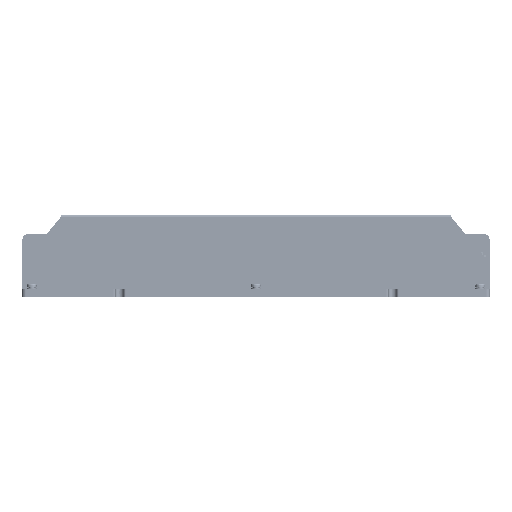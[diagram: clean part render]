
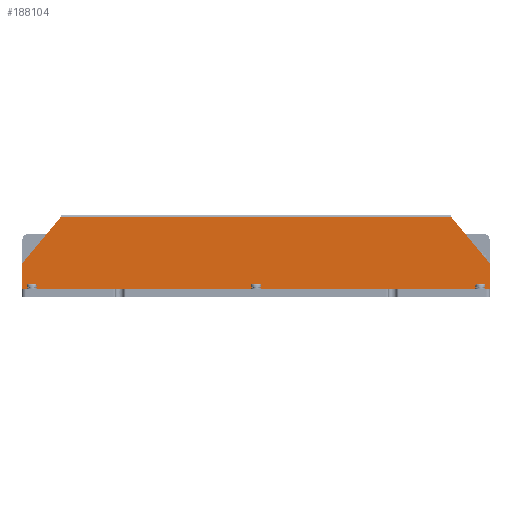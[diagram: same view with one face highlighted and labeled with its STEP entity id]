
A CAD part, top view. The second image highlights one B-rep face of the part: STEP entity #188104.
In plain terms, the highlighted planar face has unit normal (0, 0, 1).
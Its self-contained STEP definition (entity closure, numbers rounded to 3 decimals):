
#7142 = CARTESIAN_POINT ( 'NONE',  ( 119.536, 17.556, 47.1 ) ) ;
#8833 = VECTOR ( 'NONE', #40265, 1000. ) ;
#11104 = ORIENTED_EDGE ( 'NONE', *, *, #110836, .F. ) ;
#21205 = CARTESIAN_POINT ( 'NONE',  ( -119.536, 17.556, 47.1 ) ) ;
#22223 = CARTESIAN_POINT ( 'NONE',  ( -118., 16.276, 47.1 ) ) ;
#22636 = CARTESIAN_POINT ( 'NONE',  ( -100., 40.99, 47.1 ) ) ;
#32566 = EDGE_CURVE ( 'NONE', #172305, #42323, #129026, .T. ) ;
#40265 = DIRECTION ( 'NONE',  ( -1., 0., 0. ) ) ;
#42323 = VERTEX_POINT ( 'NONE', #110442 ) ;
#43633 = DIRECTION ( 'NONE',  ( -0.64, -0.768, 0. ) ) ;
#44863 = LINE ( 'NONE', #45848, #154139 ) ;
#45848 = CARTESIAN_POINT ( 'NONE',  ( 120., 40.99, 47.1 ) ) ;
#54134 = ORIENTED_EDGE ( 'NONE', *, *, #133126, .T. ) ;
#57333 = VECTOR ( 'NONE', #187794, 1000. ) ;
#57488 = AXIS2_PLACEMENT_3D ( 'NONE', #87747, #133309, #72965 ) ;
#68135 = DIRECTION ( 'NONE',  ( 0., -1., 0. ) ) ;
#69994 = LINE ( 'NONE', #160992, #8833 ) ;
#72965 = DIRECTION ( 'NONE',  ( 0., 1., 0. ) ) ;
#77948 = EDGE_CURVE ( 'NONE', #42323, #92239, #112621, .T. ) ;
#84650 = DIRECTION ( 'NONE',  ( 0., 0., 1. ) ) ;
#85659 = CARTESIAN_POINT ( 'NONE',  ( 118., 16.276, 47.1 ) ) ;
#87747 = CARTESIAN_POINT ( 'NONE',  ( 100., 40.99, 47.1 ) ) ;
#90456 = ORIENTED_EDGE ( 'NONE', *, *, #148300, .F. ) ;
#92239 = VERTEX_POINT ( 'NONE', #184400 ) ;
#94837 = LINE ( 'NONE', #97720, #57333 ) ;
#97408 = DIRECTION ( 'NONE',  ( 0., 0., 1. ) ) ;
#97720 = CARTESIAN_POINT ( 'NONE',  ( 100., 40.99, 47.1 ) ) ;
#98646 = VERTEX_POINT ( 'NONE', #116375 ) ;
#99763 = CARTESIAN_POINT ( 'NONE',  ( 100., 40.99, 47.1 ) ) ;
#100664 = CIRCLE ( 'NONE', #192312, 2. ) ;
#109586 = ORIENTED_EDGE ( 'NONE', *, *, #152282, .T. ) ;
#110442 = CARTESIAN_POINT ( 'NONE',  ( -120., 16.276, 47.1 ) ) ;
#110836 = EDGE_CURVE ( 'NONE', #195180, #98646, #44863, .T. ) ;
#111332 = DIRECTION ( 'NONE',  ( 0., 1., 0. ) ) ;
#111979 = EDGE_LOOP ( 'NONE', ( #54134, #123627, #195388, #134653, #11104, #120833, #90456, #109586 ) ) ;
#112314 = VERTEX_POINT ( 'NONE', #22636 ) ;
#112621 = LINE ( 'NONE', #140449, #170019 ) ;
#116375 = CARTESIAN_POINT ( 'NONE',  ( 120., 4.01, 47.1 ) ) ;
#120833 = ORIENTED_EDGE ( 'NONE', *, *, #161998, .T. ) ;
#123627 = ORIENTED_EDGE ( 'NONE', *, *, #32566, .T. ) ;
#128139 = VERTEX_POINT ( 'NONE', #7142 ) ;
#129026 = CIRCLE ( 'NONE', #176500, 2. ) ;
#130166 = CARTESIAN_POINT ( 'NONE',  ( 120., 16.276, 47.1 ) ) ;
#133126 = EDGE_CURVE ( 'NONE', #112314, #172305, #148578, .T. ) ;
#133309 = DIRECTION ( 'NONE',  ( 0., 0., -1. ) ) ;
#134653 = ORIENTED_EDGE ( 'NONE', *, *, #142750, .F. ) ;
#140449 = CARTESIAN_POINT ( 'NONE',  ( -120., 40.99, 47.1 ) ) ;
#142750 = EDGE_CURVE ( 'NONE', #98646, #92239, #69994, .T. ) ;
#148139 = FACE_OUTER_BOUND ( 'NONE', #111979, .T. ) ;
#148300 = EDGE_CURVE ( 'NONE', #185423, #128139, #94837, .T. ) ;
#148578 = LINE ( 'NONE', #193070, #174295 ) ;
#152282 = EDGE_CURVE ( 'NONE', #185423, #112314, #177903, .T. ) ;
#153681 = DIRECTION ( 'NONE',  ( 0., -1., 0. ) ) ;
#154139 = VECTOR ( 'NONE', #153681, 1000. ) ;
#160474 = VECTOR ( 'NONE', #189816, 1000. ) ;
#160992 = CARTESIAN_POINT ( 'NONE',  ( 100., 4.01, 47.1 ) ) ;
#161998 = EDGE_CURVE ( 'NONE', #195180, #128139, #100664, .T. ) ;
#162043 = PLANE ( 'NONE',  #57488 ) ;
#170019 = VECTOR ( 'NONE', #68135, 1000. ) ;
#172305 = VERTEX_POINT ( 'NONE', #21205 ) ;
#174295 = VECTOR ( 'NONE', #43633, 1000. ) ;
#175684 = DIRECTION ( 'NONE',  ( 0., 1., 0. ) ) ;
#176500 = AXIS2_PLACEMENT_3D ( 'NONE', #22223, #97408, #111332 ) ;
#177903 = LINE ( 'NONE', #99763, #160474 ) ;
#178903 = CARTESIAN_POINT ( 'NONE',  ( 100., 40.99, 47.1 ) ) ;
#184400 = CARTESIAN_POINT ( 'NONE',  ( -120., 4.01, 47.1 ) ) ;
#185423 = VERTEX_POINT ( 'NONE', #178903 ) ;
#187794 = DIRECTION ( 'NONE',  ( 0.64, -0.768, 0. ) ) ;
#188104 = ADVANCED_FACE ( 'NONE', ( #148139 ), #162043, .F. ) ;
#189816 = DIRECTION ( 'NONE',  ( -1., 0., 0. ) ) ;
#192312 = AXIS2_PLACEMENT_3D ( 'NONE', #85659, #84650, #175684 ) ;
#193070 = CARTESIAN_POINT ( 'NONE',  ( -100., 40.99, 47.1 ) ) ;
#195180 = VERTEX_POINT ( 'NONE', #130166 ) ;
#195388 = ORIENTED_EDGE ( 'NONE', *, *, #77948, .T. ) ;
